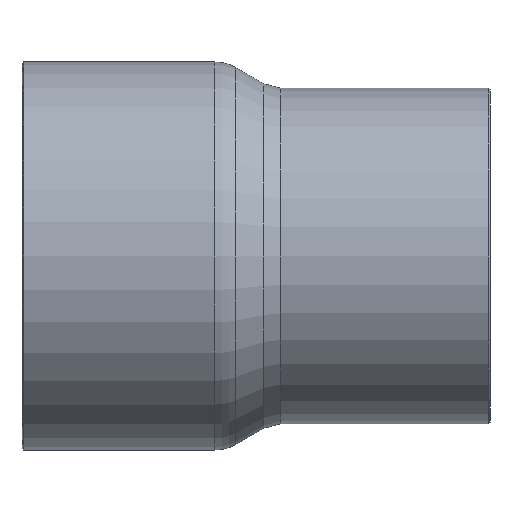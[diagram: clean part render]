
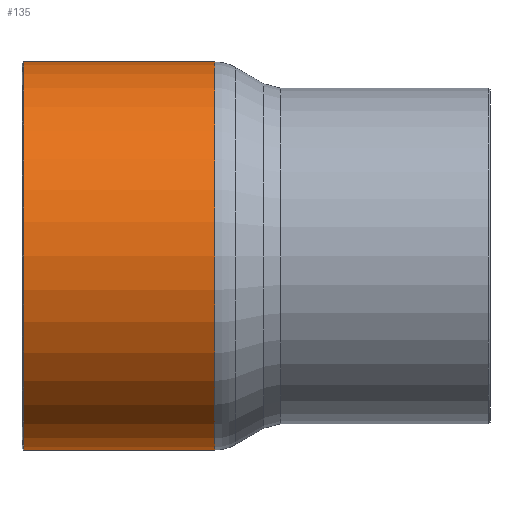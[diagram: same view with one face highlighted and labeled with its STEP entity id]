
A CAD part, front view. The second image highlights one B-rep face of the part: STEP entity #135.
In plain terms, the highlighted cylindrical face has radius 23.427 mm (diameter 46.855 mm), a full revolution.
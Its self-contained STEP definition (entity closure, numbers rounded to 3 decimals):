
#84=CARTESIAN_POINT('',(-33.3,23.427,0.));
#85=VERTEX_POINT('',#84);
#86=CARTESIAN_POINT('',(-33.3,0.0,0.0));
#87=DIRECTION('',(-1.0,0.0,0.0));
#88=DIRECTION('',(0.0,-1.0,0.0));
#89=AXIS2_PLACEMENT_3D('',#86,#87,#88);
#90=CIRCLE('',#89,23.427);
#91=EDGE_CURVE('',#85,#85,#90,.T.);
#116=CARTESIAN_POINT('',(-21.85,0.0,0.0));
#117=DIRECTION('',(1.0,0.0,0.0));
#118=DIRECTION('',(0.0,1.0,0.0));
#119=AXIS2_PLACEMENT_3D('',#116,#117,#118);
#120=CYLINDRICAL_SURFACE('',#119,23.427);
#121=CARTESIAN_POINT('',(-10.2,23.427,0.0));
#122=VERTEX_POINT('',#121);
#123=CARTESIAN_POINT('',(-10.2,0.0,0.0));
#124=DIRECTION('',(1.0,0.0,0.0));
#125=DIRECTION('',(0.0,1.0,0.0));
#126=AXIS2_PLACEMENT_3D('',#123,#124,#125);
#127=CIRCLE('',#126,23.427);
#128=EDGE_CURVE('',#122,#122,#127,.T.);
#129=ORIENTED_EDGE('',*,*,#128,.F.);
#130=EDGE_LOOP('',(#129));
#131=FACE_OUTER_BOUND('',#130,.T.);
#132=ORIENTED_EDGE('',*,*,#91,.F.);
#133=EDGE_LOOP('',(#132));
#134=FACE_BOUND('',#133,.T.);
#135=ADVANCED_FACE('',(#131,#134),#120,.T.);
